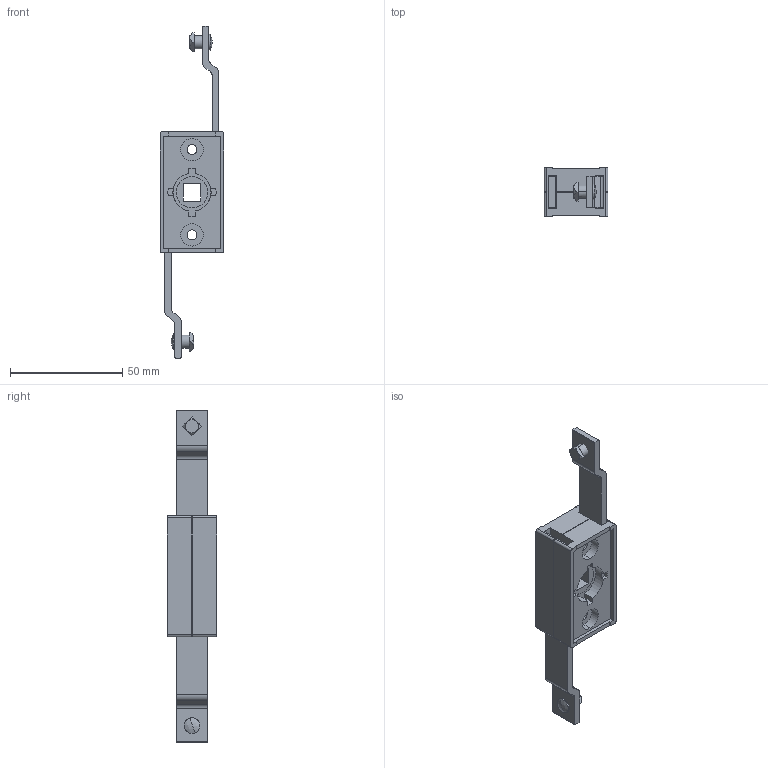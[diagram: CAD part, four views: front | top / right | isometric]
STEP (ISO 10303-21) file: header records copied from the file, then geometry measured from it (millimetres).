
FILE_DESCRIPTION (( 'STEP AP214' ), '1' );
FILE_NAME ('MZ1K.STEP', '2010-03-03T15:49:28', ( '£ukaszC' ), ( '' ), 'SwSTEP 2.0', 'SolidWorks 2008', '' );
FILE_SCHEMA (( 'AUTOMOTIVE_DESIGN' ));
Length unit declared in the file: millimetre
Products named in the file (1): MZ1K
Bounding box: 28.5 x 22 x 148.02 mm (x, y, z)
Volume: 25005 mm3; surface area: 18961.4 mm2
Topology: 6 solids, 6 shells, 211 faces, 542 edges, 347 vertices
Faces by surface type: plane 114, cylinder 82, torus 8, cone 4, sphere 3
Entity records: 6568 total; most frequent: CARTESIAN_POINT 1229, DIRECTION 1126, ORIENTED_EDGE 1084, EDGE_CURVE 542, AXIS2_PLACEMENT_3D 388, VECTOR 350, LINE 350, VERTEX_POINT 347
